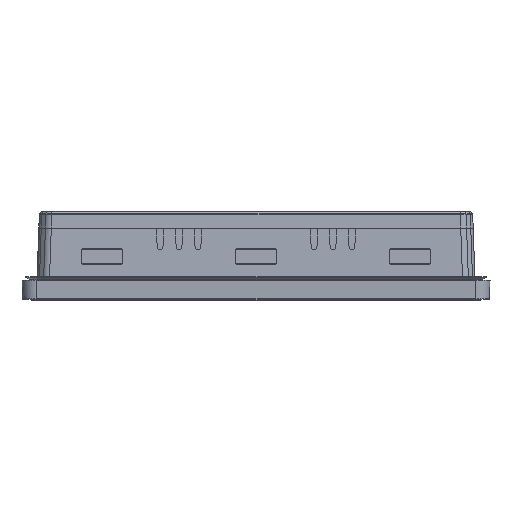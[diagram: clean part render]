
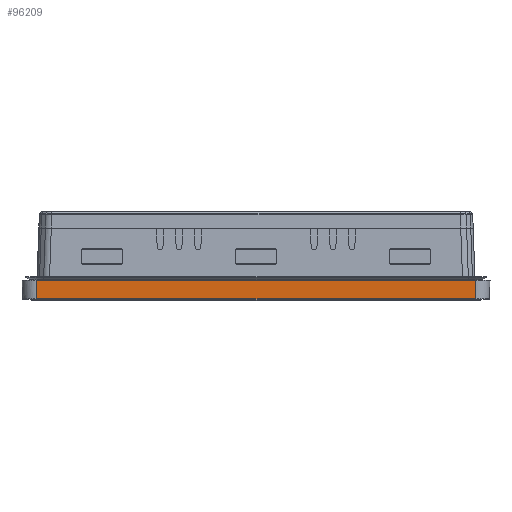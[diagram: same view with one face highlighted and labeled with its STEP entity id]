
A CAD part, left-side view. The second image highlights one B-rep face of the part: STEP entity #96209.
In plain terms, the highlighted planar face has unit normal (-0.999, 0, -0.035).
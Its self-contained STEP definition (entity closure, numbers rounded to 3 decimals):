
#31 = ORIENTED_EDGE ( 'NONE', *, *, #75689, .T. ) ;
#339 = ORIENTED_EDGE ( 'NONE', *, *, #113600, .T. ) ;
#9613 = ORIENTED_EDGE ( 'NONE', *, *, #14372, .T. ) ;
#14372 = EDGE_CURVE ( 'NONE', #96040, #64604, #112213, .T. ) ;
#14378 = VECTOR ( 'NONE', #101188, 1000. ) ;
#20287 = DIRECTION ( 'NONE',  ( -0.035, -0.035, 0.999 ) ) ;
#23550 = DIRECTION ( 'NONE',  ( -0.035, 0., 0.999 ) ) ;
#24244 = AXIS2_PLACEMENT_3D ( 'NONE', #70001, #117029, #23550 ) ;
#25366 = FACE_OUTER_BOUND ( 'NONE', #106471, .T. ) ;
#26513 = EDGE_CURVE ( 'NONE', #49597, #103586, #47486, .T. ) ;
#47486 = LINE ( 'NONE', #84761, #98018 ) ;
#48988 = CARTESIAN_POINT ( 'NONE',  ( -141.287, -92.79, 8.209 ) ) ;
#49597 = VERTEX_POINT ( 'NONE', #106559 ) ;
#58767 = LINE ( 'NONE', #48988, #111447 ) ;
#62647 = PLANE ( 'NONE',  #24244 ) ;
#63330 = LINE ( 'NONE', #109756, #14378 ) ;
#63993 = CARTESIAN_POINT ( 'NONE',  ( -141.007, -98.5, 0.193 ) ) ;
#64604 = VERTEX_POINT ( 'NONE', #84478 ) ;
#70001 = CARTESIAN_POINT ( 'NONE',  ( -141., -98.5, 0. ) ) ;
#73429 = ORIENTED_EDGE ( 'NONE', *, *, #26513, .T. ) ;
#75586 = DIRECTION ( 'NONE',  ( 0., 1., 0. ) ) ;
#75689 = EDGE_CURVE ( 'NONE', #103586, #96040, #63330, .T. ) ;
#84478 = CARTESIAN_POINT ( 'NONE',  ( -141.007, -92.51, 0.193 ) ) ;
#84761 = CARTESIAN_POINT ( 'NONE',  ( -141.279, 0., 8. ) ) ;
#96040 = VERTEX_POINT ( 'NONE', #110430 ) ;
#96209 = ADVANCED_FACE ( 'NONE', ( #25366 ), #62647, .T. ) ;
#98018 = VECTOR ( 'NONE', #75586, 1000. ) ;
#101188 = DIRECTION ( 'NONE',  ( 0.035, -0.035, -0.999 ) ) ;
#103586 = VERTEX_POINT ( 'NONE', #119667 ) ;
#106471 = EDGE_LOOP ( 'NONE', ( #31, #9613, #339, #73429 ) ) ;
#106559 = CARTESIAN_POINT ( 'NONE',  ( -141.279, -92.783, 8. ) ) ;
#109756 = CARTESIAN_POINT ( 'NONE',  ( -140.768, 92.271, -6.654 ) ) ;
#109810 = DIRECTION ( 'NONE',  ( 0., -1., 0. ) ) ;
#110430 = CARTESIAN_POINT ( 'NONE',  ( -141.007, 92.51, 0.193 ) ) ;
#111447 = VECTOR ( 'NONE', #20287, 1000. ) ;
#112213 = LINE ( 'NONE', #63993, #116590 ) ;
#113600 = EDGE_CURVE ( 'NONE', #64604, #49597, #58767, .T. ) ;
#116590 = VECTOR ( 'NONE', #109810, 1000. ) ;
#117029 = DIRECTION ( 'NONE',  ( -0.999, 0., -0.035 ) ) ;
#119667 = CARTESIAN_POINT ( 'NONE',  ( -141.279, 92.783, 8. ) ) ;
